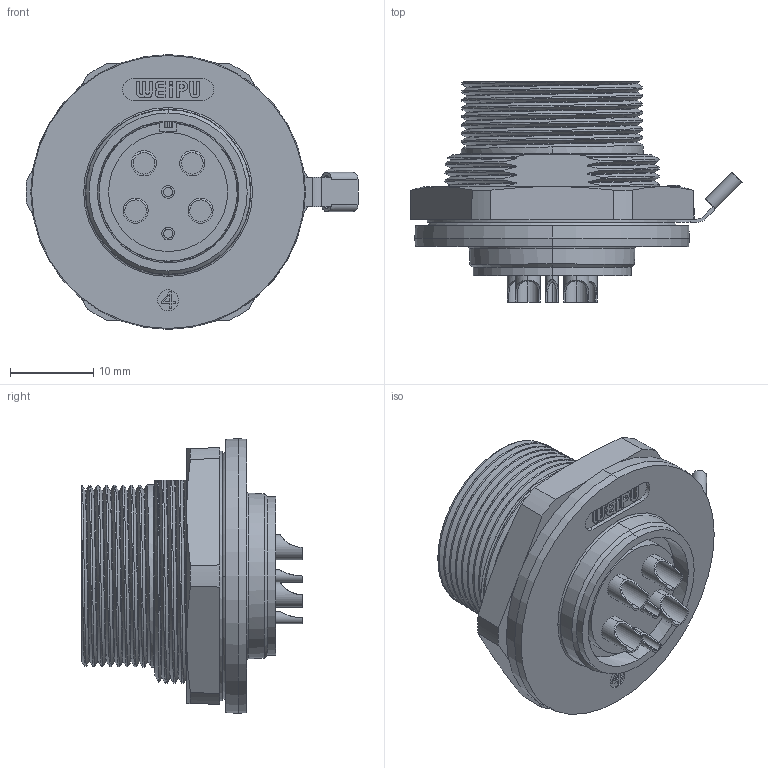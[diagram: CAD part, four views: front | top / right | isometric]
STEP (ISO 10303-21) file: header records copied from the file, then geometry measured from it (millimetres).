
FILE_DESCRIPTION((''),'2;1');
FILE_NAME('PRT0002','2017-07-12T',('Administrator'),(''),'CREO PARAMETRIC BY PTC INC, 2015380','CREO PARAMETRIC BY PTC INC, 2015380','');
FILE_SCHEMA(('CONFIG_CONTROL_DESIGN'));
Length unit declared in the file: millimetre
Products named in the file (1): PRT0002
Bounding box: 39.88 x 26.5 x 33 mm (x, y, z)
Volume: 8373.5 mm3; surface area: 6878.1 mm2
Topology: 1 solids, 3 shells, 377 faces, 1024 edges, 673 vertices
Faces by surface type: plane 156, cylinder 92, cone 60, bspline 31, torus 26, sphere 12
Entity records: 17744 total; most frequent: CARTESIAN_POINT 8409, ORIENTED_EDGE 2024, DIRECTION 1829, EDGE_CURVE 1012, AXIS2_PLACEMENT_3D 682, VERTEX_POINT 673, VECTOR 465, LINE 465
